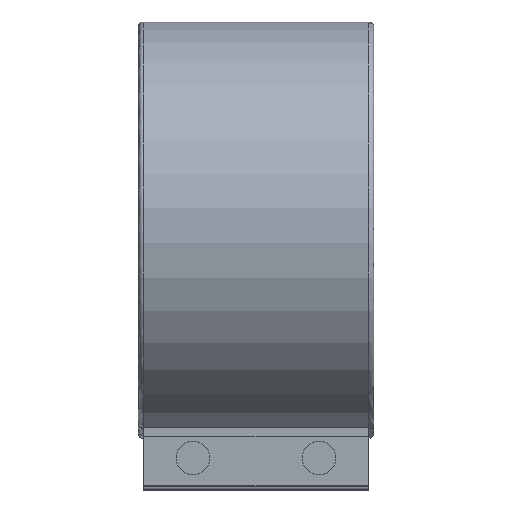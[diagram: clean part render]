
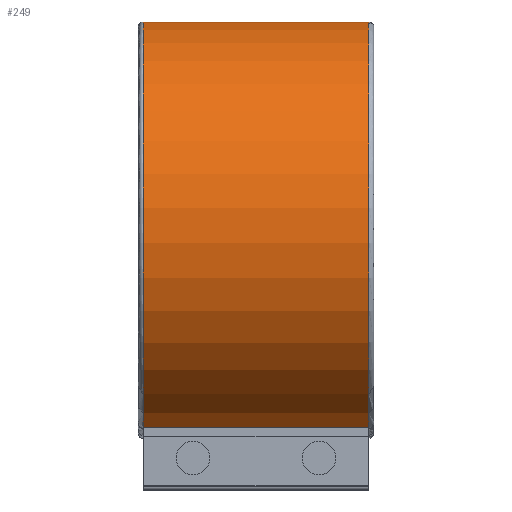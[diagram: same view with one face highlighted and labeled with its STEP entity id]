
A CAD part, top view. The second image highlights one B-rep face of the part: STEP entity #249.
In plain terms, the highlighted cylindrical face has radius 49.5 mm (diameter 99 mm), a partial arc.
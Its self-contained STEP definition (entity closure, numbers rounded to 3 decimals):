
#249 = ADVANCED_FACE( '', ( #584 ), #585, .T. );
#584 = FACE_OUTER_BOUND( '', #997, .T. );
#585 = CYLINDRICAL_SURFACE( '', #998, 49.5 );
#997 = EDGE_LOOP( '', ( #1683, #1684, #1685, #1686 ) );
#998 = AXIS2_PLACEMENT_3D( '', #1687, #1688, #1689 );
#1683 = ORIENTED_EDGE( '', *, *, #2475, .T. );
#1684 = ORIENTED_EDGE( '', *, *, #2348, .T. );
#1685 = ORIENTED_EDGE( '', *, *, #2471, .F. );
#1686 = ORIENTED_EDGE( '', *, *, #2395, .T. );
#1687 = CARTESIAN_POINT( '', ( 28., 0., 0. ) );
#1688 = DIRECTION( '', ( -1., 0., 0. ) );
#1689 = DIRECTION( '', ( 0., 0., -1. ) );
#2348 = EDGE_CURVE( '', #2820, #2821, #2822, .T. );
#2395 = EDGE_CURVE( '', #2864, #2896, #2897, .F. );
#2471 = EDGE_CURVE( '', #2864, #2821, #3009, .T. );
#2475 = EDGE_CURVE( '', #2896, #2820, #3013, .T. );
#2820 = VERTEX_POINT( '', #3499 );
#2821 = VERTEX_POINT( '', #3500 );
#2822 = LINE( '', #3501, #3502 );
#2864 = VERTEX_POINT( '', #3572 );
#2896 = VERTEX_POINT( '', #3619 );
#2897 = LINE( '', #3620, #3621 );
#3009 = CIRCLE( '', #3781, 49.5 );
#3013 = CIRCLE( '', #3785, 49.5 );
#3499 = CARTESIAN_POINT( '', ( -26.812, -46.927, 15.75 ) );
#3500 = CARTESIAN_POINT( '', ( 26.812, -46.927, 15.75 ) );
#3501 = CARTESIAN_POINT( '', ( 28., -46.927, 15.75 ) );
#3502 = VECTOR( '', #4149, 1000. );
#3572 = CARTESIAN_POINT( '', ( 26.812, -46.927, -15.75 ) );
#3619 = CARTESIAN_POINT( '', ( -26.812, -46.927, -15.75 ) );
#3620 = CARTESIAN_POINT( '', ( 28., -46.927, -15.75 ) );
#3621 = VECTOR( '', #4199, 1000. );
#3781 = AXIS2_PLACEMENT_3D( '', #4278, #4279, #4280 );
#3785 = AXIS2_PLACEMENT_3D( '', #4287, #4288, #4289 );
#4149 = DIRECTION( '', ( 1., 0., 0. ) );
#4199 = DIRECTION( '', ( 1., 0., 0. ) );
#4278 = CARTESIAN_POINT( '', ( 26.812, 0., 0. ) );
#4279 = DIRECTION( '', ( 1., 0., 0. ) );
#4280 = DIRECTION( '', ( 0., 0., -1. ) );
#4287 = CARTESIAN_POINT( '', ( -26.812, 0., 0. ) );
#4288 = DIRECTION( '', ( 1., 0., 0. ) );
#4289 = DIRECTION( '', ( 0., 0., -1. ) );
